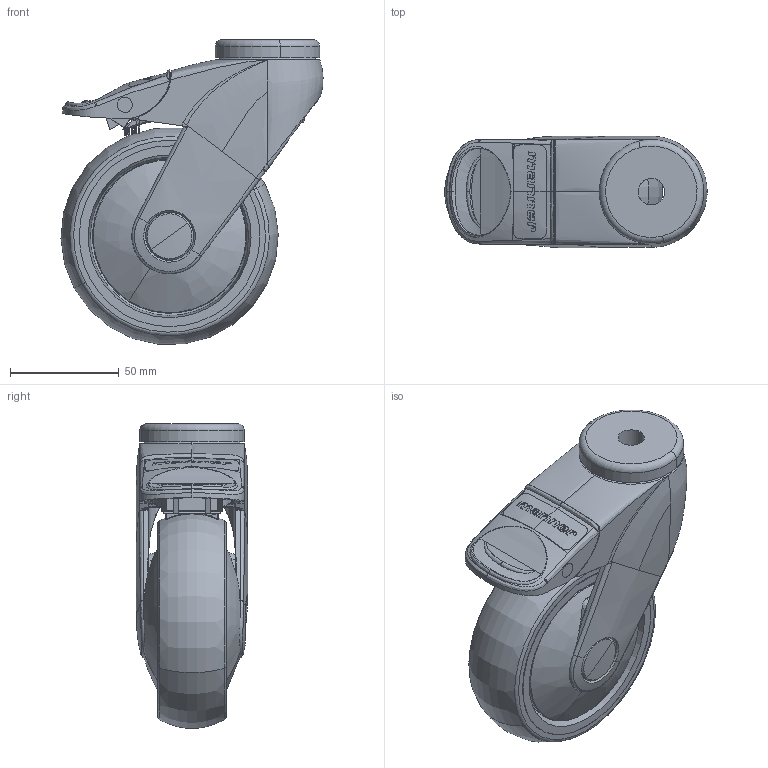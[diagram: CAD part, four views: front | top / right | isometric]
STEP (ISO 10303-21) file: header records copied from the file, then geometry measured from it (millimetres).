
FILE_DESCRIPTION (( 'STEP AP203' ), '1' );
FILE_NAME ('301736.STEP', '2010-07-14T07:06:25', ( ' ' ), ( ' ' ), 'SwSTEP 2.0', 'SolidWorks 2007', '' );
FILE_SCHEMA (( 'CONFIG_CONTROL_DESIGN' ));
Length unit declared in the file: millimetre
Products named in the file (1): 301736
Bounding box: 120.39 x 51.27 x 139.94 mm (x, y, z)
Volume: 249477.7 mm3; surface area: 141735.8 mm2
Topology: 24 solids, 24 shells, 1997 faces, 6157 edges, 4189 vertices
Faces by surface type: bspline 759, plane 539, cylinder 430, cone 117, torus 98, sphere 54
Entity records: 175704 total; most frequent: CARTESIAN_POINT 129976, ORIENTED_EDGE 12112, DIRECTION 6174, EDGE_CURVE 6056, VERTEX_POINT 4155, B_SPLINE_CURVE_WITH_KNOTS 3046, AXIS2_PLACEMENT_3D 2389, EDGE_LOOP 2073
